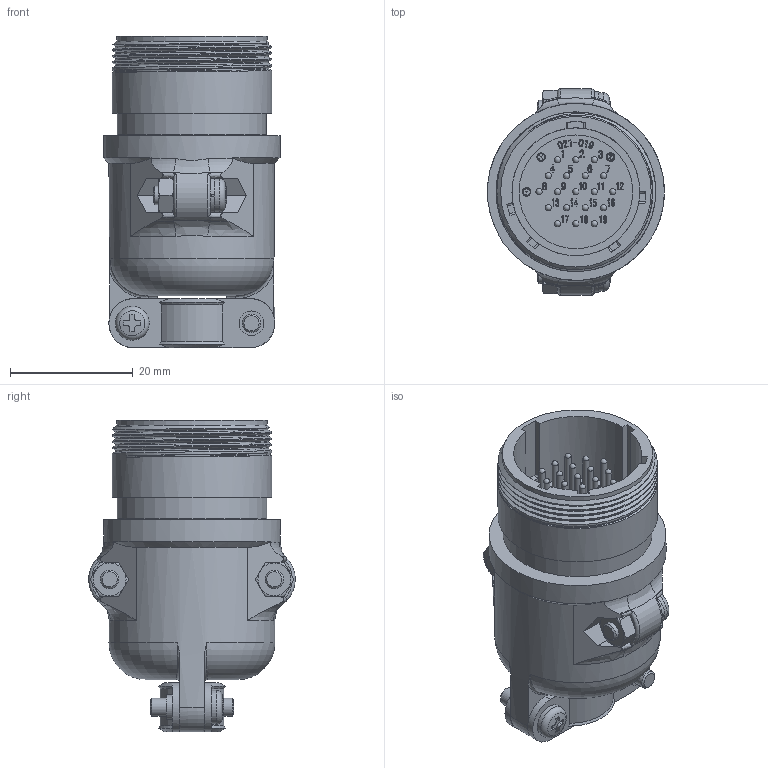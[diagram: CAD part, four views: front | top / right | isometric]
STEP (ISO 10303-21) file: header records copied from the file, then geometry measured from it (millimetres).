
FILE_DESCRIPTION (( 'STEP AP203' ), '1' );
FILE_NAME ('JMCR2119M-D.STEP', '2021-06-25T12:27:12', ( '' ), ( '' ), 'SwSTEP 2.0', 'SolidWorks 2018', '' );
FILE_SCHEMA (( 'CONFIG_CONTROL_DESIGN' ));
Products named in the file (1): JMCR2119M-D
Bounding box: 28.76 x 33.57 x 50.7 mm (x, y, z)
Volume: 12348 mm3; surface area: 10958 mm2
Topology: 1 solids, 5 shells, 1827 faces, 5042 edges, 3320 vertices
Faces by surface type: plane 803, bspline 729, cylinder 194, cone 42, torus 36, sphere 23
Full cylindrical faces by diameter (mm): 1 x19, 1.1 x22, 1.2 x1, 1.4 x4, 1.55 x19, 2.4 x4, 3 x8, 3.3 x2, 3.5 x2, 4 x2, 5.5 x2, 12 x1, 18.1 x1, 18.5 x1, 20.6 x1, 20.8 x1, 22.8 x1, 23 x1, 24.3 x1, 24.5 x1, 25.96 x4, 27 x1, 28.8 x1
Entity records: 82336 total; most frequent: CARTESIAN_POINT 42283, ORIENTED_EDGE 9530, DIRECTION 5728, EDGE_CURVE 4765, VERTEX_POINT 3220, VECTOR 2602, LINE 2602, EDGE_LOOP 2103
